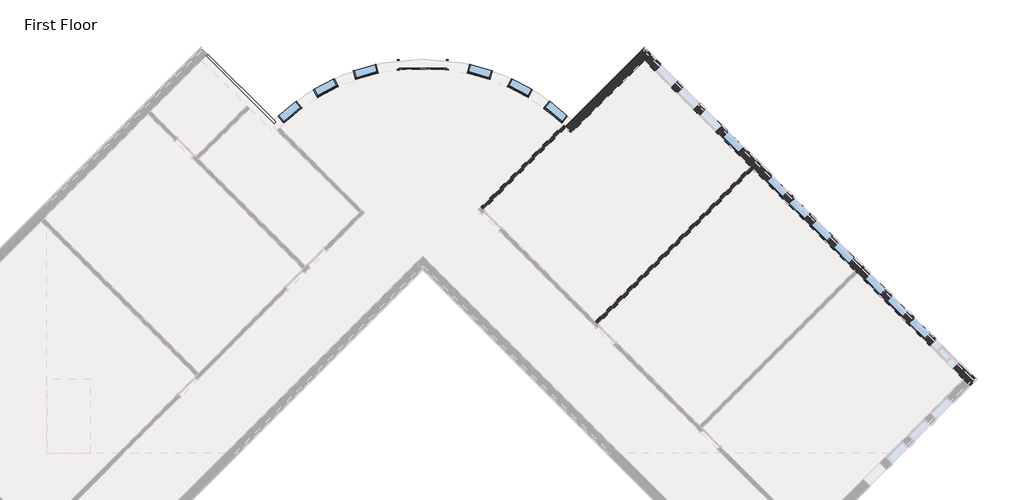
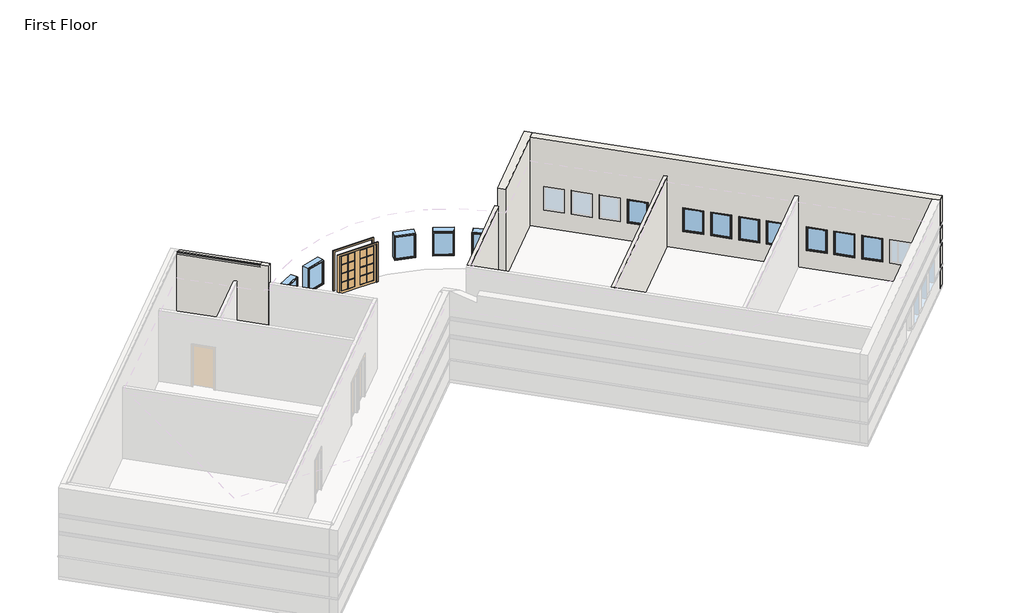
# One storey, part 2 of 3: 14 windows, 5 walls, 1 door.
"""IFC4 building model written with IfcOpenShell, lengths in millimetres."""

from ifc_helpers import new_model, si_unit, frame, origin, origin_with_axes, place, context, project, spatial, polyline, circle_curve, ellipse_curve, outline, extrude, faceted_brep, transform, mapped, element, save
from ifc_brep_helpers import plane_surface, cylinder_surface, revolved_surface, advanced_brep
from components import door_74f1c961, window_15c49d37, window_0e2fc6ce

model = new_model("IFC4")

# Units and contexts
model_context = context("Model", 3, world=origin())
ifc_project = project(units=[si_unit("LENGTHUNIT", "METRE", prefix="MILLI")], contexts=[model_context])

# Site, building, storey
site = spatial("IfcSite", under=ifc_project)
building = spatial("IfcBuilding", under=site)
storey = spatial("IfcBuildingStorey", under=building, Name="First Floor", Elevation=0.0)

# Door
placement = place(None, origin())
door_shape = door_74f1c961(model_context)
element("IfcDoor", 1, ObjectType="Double-Glass 2 : 72\" x 78\"", at=placement, inside=storey, context=model_context, shape_type="MappedRepresentation", body=[
    mapped(door_shape, transform((-3443.7425556, 10275.0854226, 0.0), x_axis=(-0.9999999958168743, -9.146721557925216e-05, 0.0), y_axis=(9.146721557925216e-05, -0.9999999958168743, 0.0), z_axis=(0.0, 0.0, 1.0))),
])

# Walls
element("IfcWall", 2, ObjectType="Exterior - Split Face and CMU on Mtl. Stud", at=placement, inside=storey, context=model_context, shape_type="AdvancedBrep", body=[
    advanced_brep(
    [(2346.973313, 7613.6268242, 0.0), (5178.0352806, 10444.6887918, 0.0), (5427.237388, 10693.8908991, 0.0), (5427.237388, 10693.8908991, 1016.0), (5362.1305311, 10628.7840422, 1016.0), (5362.1305311, 10628.7840422, 1085.85), (5427.237388, 10693.8908991, 1085.85), (5427.237388, 10693.8908991, 2133.6), (5362.1305311, 10628.7840422, 2133.6), (5362.1305311, 10628.7840422, 2336.8), (5427.237388, 10693.8908991, 2336.8), (5427.237388, 10693.8908991, 3048.0), (5362.1305311, 10628.7840422, 3048.0), (5362.1305311, 10628.7840422, 3251.2), (5427.237388, 10693.8908991, 3251.2), (5427.237388, 10693.8908991, 4572.0), (5178.0352806, 10444.6887918, 4572.0), (2346.973313, 7613.6268242, 4572.0), (2102.2428123, 7867.3005381, 4572.0), (2351.4472641, 8116.50499, 4572.0), (5178.0352806, 10943.0930065, 4572.0), (5178.0352806, 10943.0930065, 3251.2), (2351.4472641, 8116.50499, 3251.2), (2286.3398143, 8051.3975402, 3251.2), (2286.3398143, 8051.3975402, 3048.0), (2351.4472641, 8116.50499, 3048.0), (5178.0352806, 10943.0930065, 3048.0), (5178.0352806, 10943.0930065, 2336.8), (2351.4472641, 8116.50499, 2336.8), (2286.3398143, 8051.3975402, 2336.8), (2286.3398143, 8051.3975402, 2133.6), (2351.4472641, 8116.50499, 2133.6), (5178.0352806, 10943.0930065, 2133.6), (5178.0352806, 10943.0930065, 1085.85), (2351.4472641, 8116.50499, 1085.85), (2286.3398143, 8051.3975402, 1085.85), (2286.3398143, 8051.3975402, 1016.0), (2351.4472641, 8116.50499, 1016.0), (5178.0352806, 10943.0930065, 1016.0), (5178.0352806, 10943.0930065, 0.0), (2351.4472641, 8116.50499, 0.0), (2102.2428123, 7867.3005381, 0.0), (2167.2578198, 7802.1018319, 0.0), (5243.1421375, 10877.9861496, 0.0), (2351.3577606, 7986.2017727, 1016.0), (2351.3577606, 7986.2017727, 1085.85), (5178.0352806, 10812.8792927, 1085.85), (5178.0352806, 10812.8792927, 1016.0), (2351.3577606, 7986.2017727, 2133.6), (2351.3577606, 7986.2017727, 2336.8), (5178.0352806, 10812.8792927, 2336.8), (5178.0352806, 10812.8792927, 2133.6), (5178.0352806, 10812.8792927, 3048.0), (2351.3577606, 7986.2017727, 3048.0), (2351.3577606, 7986.2017727, 3251.2), (5178.0352806, 10812.8792927, 3251.2), (2132.6031084, 7837.04408, 0.0)],
    [
        (0, 1),
        (1, 2),
        (2, 3),
        (3, 4),
        (4, 5),
        (5, 6),
        (6, 7),
        (7, 8),
        (8, 9),
        (9, 10),
        (10, 11),
        (11, 12),
        (12, 13),
        (13, 14),
        (14, 15),
        (15, 16),
        (16, 17),
        (17, 0),
        (18, 19),
        (19, 20),
        (20, 21),
        (21, 22),
        (22, 23),
        (23, 24),
        (24, 25),
        (25, 26),
        (26, 27),
        (27, 28),
        (28, 29),
        (29, 30),
        (30, 31),
        (31, 32),
        (32, 33),
        (33, 34),
        (34, 35),
        (35, 36),
        (36, 37),
        (37, 38),
        (38, 39),
        (39, 40),
        (40, 41),
        (41, 18),
        (15, 20),
        (18, 17, circle_curve(frame((-3443.0105956, 2272.6557216, 4572.0), z_axis=(0.0, 0.0, -1.0), x_axis=(1.0, 0.0, 0.0)), 7877.175)),
        (0, 42, circle_curve(frame((-3443.0105956, 2272.6557216, 0.0), z_axis=(0.0, 0.0, 1.0), x_axis=(1.0, 0.0, 0.0)), 7877.175)),
        (42, 43),
        (43, 2),
        (44, 45),
        (45, 46),
        (46, 47),
        (47, 44),
        (48, 49),
        (49, 50),
        (50, 51),
        (51, 48),
        (52, 53),
        (53, 54),
        (54, 55),
        (55, 52),
        (14, 21),
        (43, 39),
        (38, 3),
        (6, 33),
        (32, 7),
        (10, 27),
        (26, 11),
        (46, 5),
        (4, 47),
        (50, 9),
        (8, 51),
        (55, 13),
        (12, 52),
        (42, 56, circle_curve(frame((-3443.0105956, 2272.6557216, 0.0), z_axis=(0.0, 0.0, 1.0), x_axis=(1.0, 0.0, 0.0)), 7877.175)),
        (56, 41, circle_curve(frame((-3443.0105956, 2272.6557216, 0.0), z_axis=(0.0, 0.0, 1.0), x_axis=(1.0, 0.0, 0.0)), 7877.175)),
        (45, 35, circle_curve(frame((-3443.0105956, 2272.6557216, 1085.85), z_axis=(0.0, 0.0, 1.0), x_axis=(0.684286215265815, 0.7292135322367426, 0.0)), 8137.525)),
        (36, 44, circle_curve(frame((-3443.0105956, 2272.6557216, 1016.0), z_axis=(0.0, 0.0, -1.0), x_axis=(0.684286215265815, 0.7292135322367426, 0.0)), 8137.525)),
        (30, 48, circle_curve(frame((-3443.0105956, 2272.6557216, 2133.6), z_axis=(0.0, 0.0, -1.0), x_axis=(-0.7040995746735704, 0.7101012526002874, 0.0)), 8137.525)),
        (29, 49, circle_curve(frame((-3443.0105956, 2272.6557216, 2336.8), z_axis=(0.0, 0.0, -1.0), x_axis=(-0.7040995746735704, 0.7101012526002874, 0.0)), 8137.525)),
        (24, 53, circle_curve(frame((-3443.0105956, 2272.6557216, 3048.0), z_axis=(0.0, 0.0, -1.0), x_axis=(-0.7040995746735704, 0.7101012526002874, 0.0)), 8137.525)),
        (23, 54, circle_curve(frame((-3443.0105956, 2272.6557216, 3251.2), z_axis=(0.0, 0.0, -1.0), x_axis=(-0.7040995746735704, 0.7101012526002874, 0.0)), 8137.525)),
    ],
    [
        plane_surface(frame((2409.8713313, 7676.5248424, 0.0), z_axis=(0.7071067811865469, -0.7071067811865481, 0.0), x_axis=(0.7071067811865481, 0.7071067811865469, 0.0))),
        plane_surface(frame((2160.6692239, 7925.7269498, 0.0), z_axis=(-0.7071067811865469, 0.7071067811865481, 0.0), x_axis=(-0.7071067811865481, -0.7071067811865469, 0.0))),
        plane_surface(frame((5302.6363343, 10569.2898454, 4572.0), z_axis=(0.0, 0.0, 1.0), x_axis=(-0.707106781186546, 0.7071067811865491, 0.0))),
        plane_surface(frame((2475.22429, 7741.8778012, 0.0), z_axis=(0.0, 0.0, -1.0), x_axis=(-0.7071067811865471, 0.7071067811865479, 0.0))),
        plane_surface(frame((2351.3577606, 7986.2017727, 1016.0), z_axis=(-0.7071067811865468, 0.7071067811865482, 0.0), x_axis=(0.7071067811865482, 0.7071067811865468, 0.0))),
        plane_surface(frame((2351.3577606, 7986.2017727, 2133.6), z_axis=(-0.7071067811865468, 0.7071067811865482, 0.0), x_axis=(0.7071067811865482, 0.7071067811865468, 0.0))),
        plane_surface(frame((2351.3577606, 7986.2017727, 3048.0), z_axis=(-0.7071067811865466, 0.7071067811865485, 0.0), x_axis=(0.7071067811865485, 0.7071067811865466, 0.0))),
        plane_surface(frame((5178.0352806, 10943.0930065, 0.0), z_axis=(0.7071067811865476, 0.7071067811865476, 0.0), x_axis=(-0.7071067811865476, 0.7071067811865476, 0.0))),
        plane_surface(frame((5178.0352806, 10812.8792927, 1016.0), z_axis=(0.7071067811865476, 0.7071067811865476, 0.0), x_axis=(0.7071067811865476, -0.7071067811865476, 0.0))),
        plane_surface(frame((5178.0352806, 10812.8792927, 2133.6), z_axis=(0.7071067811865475, 0.7071067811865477, 0.0), x_axis=(0.7071067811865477, -0.7071067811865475, 0.0))),
        plane_surface(frame((5178.0352806, 10812.8792927, 3048.0), z_axis=(0.7071067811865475, 0.7071067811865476, 0.0), x_axis=(0.7071067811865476, -0.7071067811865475, 0.0))),
        plane_surface(frame((0.0, 0.0, 0.0), z_axis=(0.0, 0.0, -1.0), x_axis=(1.0, 0.0, 0.0))),
        plane_surface(frame((-3443.0105956, 2272.6557216, 1085.85), z_axis=(0.0, 0.0, -1.0), x_axis=(0.684286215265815, 0.7292135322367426, 0.0))),
        plane_surface(frame((-3443.0105956, 2272.6557216, 1016.0), z_axis=(0.0, 0.0, 1.0), x_axis=(0.684286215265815, 0.7292135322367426, 0.0))),
        cylinder_surface(frame((-3443.0105956, 2272.6557216, 1016.0), z_axis=(0.0, 0.0, -1.0), x_axis=(0.684286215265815, 0.7292135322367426, 0.0)), 8137.525),
        plane_surface(frame((-3443.0105956, 2272.6557216, 2133.6), z_axis=(0.0, 0.0, 1.0), x_axis=(-0.7040995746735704, 0.7101012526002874, 0.0))),
        cylinder_surface(frame((-3443.0105956, 2272.6557216, 2133.6), z_axis=(0.0, 0.0, -1.0), x_axis=(-0.7040995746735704, 0.7101012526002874, 0.0)), 8137.525),
        plane_surface(frame((-3443.0105956, 2272.6557216, 2336.8), z_axis=(0.0, 0.0, -1.0), x_axis=(-0.7040995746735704, 0.7101012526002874, 0.0))),
        plane_surface(frame((-3443.0105956, 2272.6557216, 3048.0), z_axis=(0.0, 0.0, 1.0), x_axis=(-0.7040995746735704, 0.7101012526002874, 0.0))),
        cylinder_surface(frame((-3443.0105956, 2272.6557216, 3048.0), z_axis=(0.0, 0.0, -1.0), x_axis=(-0.7040995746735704, 0.7101012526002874, 0.0)), 8137.525),
        plane_surface(frame((-3443.0105956, 2272.6557216, 3251.2), z_axis=(0.0, 0.0, -1.0), x_axis=(-0.7040995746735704, 0.7101012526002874, 0.0))),
        revolved_surface(polyline([(4434.1644044, 2272.6557216, 0.0), (4434.1644044, 2272.6557216, 4572.0)]), (-3443.0105956, 2272.6557216, 0.0), (0.0, 0.0, -1.0)),
    ],
    [
        (0, [[1, 2, 3, 4, 5, 6, 7, 8, 9, 10, 11, 12, 13, 14, 15, 16, 17, 18]]),
        (1, [[19, 20, 21, 22, 23, 24, 25, 26, 27, 28, 29, 30, 31, 32, 33, 34, 35, 36, 37, 38, 39, 40, 41, 42]]),
        (2, [[-17, -16, 43, -20, -19, 44]]),
        (3, [[-2, -1, 45, 46, 47]]),
        (4, [[48, 49, 50, 51]]),
        (5, [[52, 53, 54, 55]]),
        (6, [[56, 57, 58, 59]]),
        (7, [[-43, -15, 60, -21]]),
        (7, [[-47, 61, -39, 62, -3]]),
        (7, [[-7, 63, -33, 64]]),
        (7, [[65, -27, 66, -11]]),
        (8, [[-50, 67, -5, 68]]),
        (9, [[-54, 69, -9, 70]]),
        (10, [[-59, 71, -13, 72]]),
        (11, [[-41, -40, -61, -46, 73, 74]]),
        (12, [[-49, 75, -35, -34, -63, -6, -67]]),
        (13, [[-51, -68, -4, -62, -38, -37, 76]]),
        (14, [[-48, -76, -36, -75]]),
        (15, [[-55, -70, -8, -64, -32, -31, 77]]),
        (16, [[-52, -77, -30, 78]]),
        (17, [[-53, -78, -29, -28, -65, -10, -69]]),
        (18, [[-56, -72, -12, -66, -26, -25, 79]]),
        (19, [[-57, -79, -24, 80]]),
        (20, [[-58, -80, -23, -22, -60, -14, -71]]),
        (21, [[-44, -42, -74, -73, -45, -18]]),
    ],
),
])
element("IfcWall", 3, ObjectType="Exterior - Split Face and CMU on Mtl. Stud", at=placement, inside=storey, context=model_context, shape_type="Brep", body=[
    faceted_brep([(5178.0352806, 10444.6887918, 0.0), (9308.9530963, 6313.7709761, 0.0), (9418.9612338, 6203.7628386, 0.0), (13370.2739271, 2252.4501453, 0.0), (13480.2820645, 2142.4420078, 0.0), (17611.1998802, -1988.4758079, 0.0), (17860.4019876, -2237.6779152, 0.0), (17860.4019876, -2237.6779152, 1016.0), (17795.2951307, -2172.5710583, 1016.0), (17795.2951307, -2172.5710583, 1085.85), (17860.4019876, -2237.6779152, 1085.85), (17860.4019876, -2237.6779152, 2133.6), (17795.2951307, -2172.5710583, 2133.6), (17795.2951307, -2172.5710583, 2336.8), (17860.4019876, -2237.6779152, 2336.8), (17860.4019876, -2237.6779152, 3048.0), (17795.2951307, -2172.5710583, 3048.0), (17795.2951307, -2172.5710583, 3251.2), (17860.4019876, -2237.6779152, 3251.2), (17860.4019876, -2237.6779152, 4572.0), (17611.1998802, -1988.4758079, 4572.0), (5178.0352806, 10444.6887918, 4572.0), (17196.9855667, -1574.2614943, 2133.6), (17196.9855667, -1574.2614943, 914.4), (16301.2050186, -678.4809462, 914.4), (16301.2050186, -678.4809462, 2133.6), (5592.2495942, 10030.4744782, 914.4), (5592.2495942, 10030.4744782, 2133.6), (6238.8280349, 9383.8960375, 2133.6), (6238.8280349, 9383.8960375, 914.4), (6454.3541818, 9168.3698906, 914.4), (6454.3541818, 9168.3698906, 2133.6), (7100.9326225, 8521.7914498, 2133.6), (7100.9326225, 8521.7914498, 914.4), (7316.4587694, 8306.2653029, 914.4), (7316.4587694, 8306.2653029, 2133.6), (7963.0372102, 7659.6868622, 2133.6), (7963.0372102, 7659.6868622, 914.4), (8178.5633571, 7444.1607153, 914.4), (8178.5633571, 7444.1607153, 2133.6), (8825.1417978, 6797.5822746, 2133.6), (8825.1417978, 6797.5822746, 914.4), (10549.350973, 5073.3730993, 2133.6), (10549.350973, 5073.3730993, 914.4), (9902.7725323, 5719.9515401, 914.4), (9902.7725323, 5719.9515401, 2133.6), (11411.4555607, 4211.2685117, 2133.6), (11411.4555607, 4211.2685117, 914.4), (10764.8771199, 4857.8469524, 914.4), (10764.8771199, 4857.8469524, 2133.6), (12273.5601483, 3349.1639241, 2133.6), (12273.5601483, 3349.1639241, 914.4), (11626.9817076, 3995.7423648, 914.4), (11626.9817076, 3995.7423648, 2133.6), (13135.6647359, 2487.0593365, 2133.6), (13135.6647359, 2487.0593365, 914.4), (12489.0862952, 3133.6377772, 914.4), (12489.0862952, 3133.6377772, 2133.6), (15439.100431, 183.6236414, 914.4), (15439.100431, 183.6236414, 2133.6), (16085.6788717, -462.9547993, 2133.6), (16085.6788717, -462.9547993, 914.4), (14576.9958433, 1045.728229, 914.4), (14576.9958433, 1045.728229, 2133.6), (15223.574284, 399.1497883, 2133.6), (15223.574284, 399.1497883, 914.4), (13714.8912557, 1907.8328167, 914.4), (13714.8912557, 1907.8328167, 2133.6), (14361.4696964, 1261.2543759, 2133.6), (14361.4696964, 1261.2543759, 914.4), (5427.237388, 10693.8908991, 4572.0), (18109.604095, -1988.4758079, 4572.0), (18109.604095, -1988.4758079, 3251.2), (5427.237388, 10693.8908991, 3251.2), (18109.604095, -1988.4758079, 0.0), (5427.237388, 10693.8908991, 0.0), (5427.237388, 10693.8908991, 1016.0), (5841.4517016, 10279.6765855, 1016.0), (5841.4517016, 10279.6765855, 914.4), (6488.0301423, 9633.0981448, 914.4), (6488.0301423, 9633.0981448, 1016.0), (6703.5562892, 9417.5719979, 1016.0), (6703.5562892, 9417.5719979, 914.4), (7350.1347299, 8770.9935572, 914.4), (7350.1347299, 8770.9935572, 1016.0), (7565.6608768, 8555.4674103, 1016.0), (7565.6608768, 8555.4674103, 914.4), (8212.2393175, 7908.8889696, 914.4), (8212.2393175, 7908.8889696, 1016.0), (8427.7654644, 7693.3628227, 1016.0), (8427.7654644, 7693.3628227, 914.4), (9074.3439051, 7046.7843819, 914.4), (9074.3439051, 7046.7843819, 1016.0), (10151.9746397, 5969.1536474, 1016.0), (10151.9746397, 5969.1536474, 914.4), (10798.5530804, 5322.5752067, 914.4), (10798.5530804, 5322.5752067, 1016.0), (11014.0792273, 5107.0490598, 1016.0), (11014.0792273, 5107.0490598, 914.4), (11660.657668, 4460.4706191, 914.4), (11660.657668, 4460.4706191, 1016.0), (11876.1838149, 4244.9444722, 1016.0), (11876.1838149, 4244.9444722, 914.4), (12522.7622556, 3598.3660315, 914.4), (12522.7622556, 3598.3660315, 1016.0), (12738.2884025, 3382.8398846, 1016.0), (12738.2884025, 3382.8398846, 914.4), (13384.8668433, 2736.2614438, 914.4), (13384.8668433, 2736.2614438, 1016.0), (13964.0933631, 2157.034924, 1016.0), (13964.0933631, 2157.034924, 914.4), (14610.6718038, 1510.4564833, 914.4), (14610.6718038, 1510.4564833, 1016.0), (14826.1979507, 1294.9303364, 1016.0), (14826.1979507, 1294.9303364, 914.4), (15472.7763914, 648.3518957, 914.4), (15472.7763914, 648.3518957, 1016.0), (15688.3025383, 432.8257488, 1016.0), (15688.3025383, 432.8257488, 914.4), (16334.880979, -213.7526919, 914.4), (16334.880979, -213.7526919, 1016.0), (16550.4071259, -429.2788388, 1016.0), (16550.4071259, -429.2788388, 914.4), (17446.187674, -1325.0593869, 914.4), (17446.187674, -1325.0593869, 1016.0), (18109.604095, -1988.4758079, 1016.0), (18109.604095, -1988.4758079, 1085.85), (17446.187674, -1325.0593869, 1085.85), (17446.187674, -1325.0593869, 2133.6), (18109.604095, -1988.4758079, 2133.6), (5841.4517016, 10279.6765855, 1085.85), (5427.237388, 10693.8908991, 1085.85), (5427.237388, 10693.8908991, 2133.6), (5841.4517016, 10279.6765855, 2133.6), (18109.604095, -1988.4758079, 2336.8), (5427.237388, 10693.8908991, 2336.8), (5427.237388, 10693.8908991, 3048.0), (18109.604095, -1988.4758079, 3048.0), (16334.880979, -213.7526919, 2133.6), (16550.4071259, -429.2788388, 2133.6), (16550.4071259, -429.2788388, 1085.85), (16334.880979, -213.7526919, 1085.85), (6488.0301423, 9633.0981448, 1085.85), (6488.0301423, 9633.0981448, 2133.6), (6703.5562892, 9417.5719979, 2133.6), (6703.5562892, 9417.5719979, 1085.85), (15472.7763914, 648.3518957, 2133.6), (15688.3025383, 432.8257488, 2133.6), (15688.3025383, 432.8257488, 1085.85), (15472.7763914, 648.3518957, 1085.85), (7350.1347299, 8770.9935572, 1085.85), (7350.1347299, 8770.9935572, 2133.6), (7565.6608768, 8555.4674103, 2133.6), (7565.6608768, 8555.4674103, 1085.85), (14610.6718038, 1510.4564833, 2133.6), (14826.1979507, 1294.9303364, 2133.6), (14826.1979507, 1294.9303364, 1085.85), (14610.6718038, 1510.4564833, 1085.85), (8212.2393175, 7908.8889696, 1085.85), (8212.2393175, 7908.8889696, 2133.6), (8427.7654644, 7693.3628227, 2133.6), (8427.7654644, 7693.3628227, 1085.85), (13384.8668433, 2736.2614438, 2133.6), (13964.0933631, 2157.034924, 2133.6), (13964.0933631, 2157.034924, 1085.85), (13384.8668433, 2736.2614438, 1085.85), (9074.3439051, 7046.7843819, 1085.85), (9074.3439051, 7046.7843819, 2133.6), (10151.9746397, 5969.1536474, 2133.6), (10151.9746397, 5969.1536474, 1085.85), (12522.7622556, 3598.3660315, 2133.6), (12738.2884025, 3382.8398846, 2133.6), (12738.2884025, 3382.8398846, 1085.85), (12522.7622556, 3598.3660315, 1085.85), (10798.5530804, 5322.5752067, 1085.85), (10798.5530804, 5322.5752067, 2133.6), (11014.0792273, 5107.0490598, 2133.6), (11014.0792273, 5107.0490598, 1085.85), (11660.657668, 4460.4706191, 1085.85), (11660.657668, 4460.4706191, 2133.6), (11876.1838149, 4244.9444722, 2133.6), (11876.1838149, 4244.9444722, 1085.85), (5362.1305311, 10628.7840422, 0.0), (18044.4972381, -2053.5826647, 0.0), (17979.3903812, -1988.4758079, 1085.85), (17381.0808171, -1390.1662438, 1085.85), (17381.0808171, -1390.1662438, 1016.0), (17979.3903812, -1988.4758079, 1016.0), (17979.3903812, -1988.4758079, 2133.6), (17381.0808171, -1390.1662438, 2133.6), (16485.3002691, -494.3856957, 2133.6), (16269.7741222, -278.8595488, 2133.6), (15623.1956814, 367.7188919, 2133.6), (15407.6695345, 583.2450388, 2133.6), (14761.0910938, 1229.8234795, 2133.6), (14545.5649469, 1445.3496264, 2133.6), (13898.9865062, 2091.9280671, 2133.6), (13319.7599864, 2671.154587, 2133.6), (12673.1815457, 3317.7330277, 2133.6), (12457.6553988, 3533.2591746, 2133.6), (11811.076958, 4179.8376153, 2133.6), (11595.5508111, 4395.3637622, 2133.6), (10948.9723704, 5041.9422029, 2133.6), (10733.4462235, 5257.4683498, 2133.6), (10086.8677828, 5904.0467905, 2133.6), (9009.2370483, 6981.6775251, 2133.6), (8362.6586076, 7628.2559658, 2133.6), (8147.1324606, 7843.7821127, 2133.6), (7500.5540199, 8490.3605534, 2133.6), (7285.027873, 8705.8867003, 2133.6), (6638.4494323, 9352.465141, 2133.6), (6422.9232854, 9567.9912879, 2133.6), (5776.3448447, 10214.5697287, 2133.6), (5362.1305311, 10628.7840422, 2133.6), (5362.1305311, 10628.7840422, 2336.8), (17979.3903812, -1988.4758079, 2336.8), (17979.3903812, -1988.4758079, 3251.2), (17979.3903812, -1988.4758079, 3048.0), (5362.1305311, 10628.7840422, 3048.0), (5362.1305311, 10628.7840422, 3251.2), (5362.1305311, 10628.7840422, 1085.85), (5362.1305311, 10628.7840422, 1016.0), (5776.3448447, 10214.5697287, 1085.85), (5776.3448447, 10214.5697287, 1016.0), (16269.7741222, -278.8595488, 1085.85), (16485.3002691, -494.3856957, 1085.85), (16485.3002691, -494.3856957, 1016.0), (16269.7741222, -278.8595488, 1016.0), (6422.9232854, 9567.9912879, 1085.85), (6422.9232854, 9567.9912879, 1016.0), (15407.6695345, 583.2450388, 1085.85), (15623.1956814, 367.7188919, 1085.85), (15623.1956814, 367.7188919, 1016.0), (15407.6695345, 583.2450388, 1016.0), (6638.4494323, 9352.465141, 1016.0), (6638.4494323, 9352.465141, 1085.85), (7285.027873, 8705.8867003, 1085.85), (7285.027873, 8705.8867003, 1016.0), (14545.5649469, 1445.3496264, 1085.85), (14761.0910938, 1229.8234795, 1085.85), (14761.0910938, 1229.8234795, 1016.0), (14545.5649469, 1445.3496264, 1016.0), (7500.5540199, 8490.3605534, 1016.0), (7500.5540199, 8490.3605534, 1085.85), (8147.1324606, 7843.7821127, 1085.85), (8147.1324606, 7843.7821127, 1016.0), (13319.7599864, 2671.154587, 1085.85), (13898.9865062, 2091.9280671, 1085.85), (13898.9865062, 2091.9280671, 1016.0), (13319.7599864, 2671.154587, 1016.0), (8362.6586076, 7628.2559658, 1016.0), (8362.6586076, 7628.2559658, 1085.85), (9009.2370483, 6981.6775251, 1085.85), (9009.2370483, 6981.6775251, 1016.0), (12457.6553988, 3533.2591746, 1085.85), (12673.1815457, 3317.7330277, 1085.85), (12673.1815457, 3317.7330277, 1016.0), (12457.6553988, 3533.2591746, 1016.0), (10733.4462235, 5257.4683498, 1085.85), (10733.4462235, 5257.4683498, 1016.0), (10086.8677828, 5904.0467905, 1016.0), (10086.8677828, 5904.0467905, 1085.85), (11595.5508111, 4395.3637622, 1085.85), (11595.5508111, 4395.3637622, 1016.0), (10948.9723704, 5041.9422029, 1016.0), (10948.9723704, 5041.9422029, 1085.85), (11811.076958, 4179.8376153, 1016.0), (11811.076958, 4179.8376153, 1085.85)], [[[0, 1, 2, 3, 4, 5, 6, 7, 8, 9, 10, 11, 12, 13, 14, 15, 16, 17, 18, 19, 20, 21], [22, 23, 24, 25], [26, 27, 28, 29], [30, 31, 32, 33], [34, 35, 36, 37], [38, 39, 40, 41], [42, 43, 44, 45], [46, 47, 48, 49], [50, 51, 52, 53], [54, 55, 56, 57], [58, 59, 60, 61], [62, 63, 64, 65], [66, 67, 68, 69]], [[70, 71, 72, 73]], [[74, 75, 76, 77, 78, 79, 80, 81, 82, 83, 84, 85, 86, 87, 88, 89, 90, 91, 92, 93, 94, 95, 96, 97, 98, 99, 100, 101, 102, 103, 104, 105, 106, 107, 108, 109, 110, 111, 112, 113, 114, 115, 116, 117, 118, 119, 120, 121, 122, 123, 124, 125]], [[126, 127, 128, 129]], [[130, 131, 132, 133]], [[134, 135, 136, 137]], [[138, 139, 140, 141]], [[142, 143, 144, 145]], [[146, 147, 148, 149]], [[150, 151, 152, 153]], [[154, 155, 156, 157]], [[158, 159, 160, 161]], [[162, 163, 164, 165]], [[166, 167, 168, 169]], [[170, 171, 172, 173]], [[174, 175, 176, 177]], [[178, 179, 180, 181]], [[21, 20, 19, 71, 70]], [[6, 5, 4, 3, 2, 1, 0, 182, 183]], [[184, 185, 127, 126, 10, 9]], [[186, 187, 8, 7, 125, 124]], [[185, 184, 187, 186]], [[188, 189, 190, 191, 192, 193, 194, 195, 196, 197, 198, 199, 200, 201, 202, 203, 204, 205, 206, 207, 208, 209, 210, 211, 212, 213, 214, 215]], [[216, 217, 218, 219]], [[0, 21, 70, 73, 219, 218, 136, 135, 214, 213, 132, 131, 220, 221, 76, 75, 182]], [[75, 74, 183, 182]], [[131, 130, 222, 220]], [[77, 76, 221, 223]], [[132, 213, 212, 133]], [[189, 188, 12, 11, 129, 128]], [[139, 138, 191, 190]], [[143, 211, 210, 144]], [[147, 146, 193, 192]], [[151, 209, 208, 152]], [[155, 154, 195, 194]], [[159, 207, 206, 160]], [[163, 162, 197, 196]], [[167, 205, 204, 168]], [[171, 170, 199, 198]], [[201, 200, 180, 179]], [[203, 202, 176, 175]], [[215, 214, 135, 134, 14, 13]], [[218, 217, 16, 15, 137, 136]], [[17, 216, 219, 73, 72, 18]], [[71, 19, 18, 72]], [[6, 183, 74, 125, 7]], [[14, 134, 137, 15]], [[11, 10, 126, 129]], [[188, 215, 13, 12]], [[217, 216, 17, 16]], [[23, 123, 122, 24]], [[23, 22, 189, 128, 127, 185, 186, 124, 123]], [[189, 22, 25, 190]], [[224, 225, 226, 227]], [[27, 26, 78, 77, 223, 222, 130, 133, 212]], [[79, 78, 26, 29]], [[29, 28, 211, 143, 142, 228, 229, 80, 79]], [[28, 27, 212, 211]], [[230, 231, 232, 233]], [[225, 224, 141, 140]], [[227, 226, 121, 120]], [[31, 30, 82, 81, 234, 235, 145, 144, 210]], [[83, 82, 30, 33]], [[33, 32, 209, 151, 150, 236, 237, 84, 83]], [[32, 31, 210, 209]], [[238, 239, 240, 241]], [[231, 230, 149, 148]], [[233, 232, 117, 116]], [[35, 34, 86, 85, 242, 243, 153, 152, 208]], [[87, 86, 34, 37]], [[37, 36, 207, 159, 158, 244, 245, 88, 87]], [[36, 35, 208, 207]], [[246, 247, 248, 249]], [[239, 238, 157, 156]], [[241, 240, 113, 112]], [[39, 38, 90, 89, 250, 251, 161, 160, 206]], [[91, 90, 38, 41]], [[41, 40, 205, 167, 166, 252, 253, 92, 91]], [[40, 39, 206, 205]], [[254, 255, 256, 257]], [[247, 246, 165, 164]], [[249, 248, 109, 108]], [[43, 42, 203, 175, 174, 258, 259, 96, 95]], [[44, 43, 95, 94]], [[45, 44, 94, 93, 260, 261, 169, 168, 204]], [[42, 45, 204, 203]], [[47, 46, 201, 179, 178, 262, 263, 100, 99]], [[48, 47, 99, 98]], [[49, 48, 98, 97, 264, 265, 177, 176, 202]], [[46, 49, 202, 201]], [[51, 50, 199, 170, 173, 254, 257, 104, 103]], [[52, 51, 103, 102]], [[53, 52, 102, 101, 266, 267, 181, 180, 200]], [[50, 53, 200, 199]], [[55, 54, 197, 162, 165, 246, 249, 108, 107]], [[56, 55, 107, 106]], [[57, 56, 106, 105, 256, 255, 172, 171, 198]], [[54, 57, 198, 197]], [[244, 251, 250, 245]], [[261, 252, 166, 169]], [[253, 260, 93, 92]], [[252, 261, 260, 253]], [[265, 258, 174, 177]], [[259, 264, 97, 96]], [[258, 265, 264, 259]], [[267, 262, 178, 181]], [[263, 266, 101, 100]], [[262, 267, 266, 263]], [[255, 254, 173, 172]], [[257, 256, 105, 104]], [[24, 122, 121, 226, 225, 140, 139, 190, 25]], [[59, 58, 118, 117, 232, 231, 148, 147, 192]], [[119, 118, 58, 61]], [[61, 60, 191, 138, 141, 224, 227, 120, 119]], [[60, 59, 192, 191]], [[63, 62, 114, 113, 240, 239, 156, 155, 194]], [[115, 114, 62, 65]], [[65, 64, 193, 146, 149, 230, 233, 116, 115]], [[64, 63, 194, 193]], [[67, 66, 110, 109, 248, 247, 164, 163, 196]], [[111, 110, 66, 69]], [[69, 68, 195, 154, 157, 238, 241, 112, 111]], [[68, 67, 196, 195]], [[220, 222, 223, 221]], [[235, 228, 142, 145]], [[229, 234, 81, 80]], [[228, 235, 234, 229]], [[243, 236, 150, 153]], [[237, 242, 85, 84]], [[236, 243, 242, 237]], [[251, 244, 158, 161]], [[245, 250, 89, 88]], [[187, 184, 9, 8]]]),
])
element("IfcWall", 4, ObjectType="Exterior - Split Face and CMU on Mtl. Stud", at=placement, inside=storey, context=model_context, shape_type="AdvancedBrep", body=[
    advanced_brep(
    [(-9232.9945042, 7613.6268242, 0.0), (-9232.9945042, 7613.6268242, 4689.475), (-12064.0564718, 10444.6887918, 4689.475), (-12064.0564718, 10444.6887918, 4639.3965909), (-9486.6705627, 7867.3028826, 4639.3965909), (-9486.6705627, 7867.3028826, 4572.0), (-12064.0564718, 10444.6887918, 4572.0), (-12064.0564718, 10444.6887918, 0.0), (-10303.9262721, 8684.558592, 0.0), (-10193.9181346, 8574.5504545, 0.0), (-11814.8543645, 10693.8908991, 0.0), (-11814.8543645, 10693.8908991, 1016.0), (-9237.4684553, 8116.50499, 1016.0), (-9172.3610055, 8051.3975402, 1016.0), (-9172.3610055, 8051.3975402, 1085.85), (-9237.4684553, 8116.50499, 1085.85), (-11814.8543645, 10693.8908991, 1085.85), (-11814.8543645, 10693.8908991, 2133.6), (-9237.4684553, 8116.50499, 2133.6), (-9172.3610055, 8051.3975402, 2133.6), (-9172.3610055, 8051.3975402, 2336.8), (-9237.4684553, 8116.50499, 2336.8), (-11814.8543645, 10693.8908991, 2336.8), (-11814.8543645, 10693.8908991, 3048.0), (-9237.4684553, 8116.50499, 3048.0), (-9172.3610055, 8051.3975402, 3048.0), (-9172.3610055, 8051.3975402, 3251.2), (-9237.4684553, 8116.50499, 3251.2), (-11814.8543645, 10693.8908991, 3251.2), (-11814.8543645, 10693.8908991, 4572.0), (-9237.4684553, 8116.50499, 4572.0), (-8988.2640035, 7867.3005381, 4572.0), (-8988.2640035, 7867.3005381, 0.0), (-9237.4684553, 8116.50499, 0.0), (-9237.3789518, 7986.2017727, 1016.0), (-11879.9612214, 10628.7840422, 1016.0), (-11879.9612214, 10628.7840422, 1085.85), (-9237.3789518, 7986.2017727, 1085.85), (-9237.3789518, 7986.2017727, 2133.6), (-11879.9612214, 10628.7840422, 2133.6), (-11879.9612214, 10628.7840422, 2336.8), (-9237.3789518, 7986.2017727, 2336.8), (-9237.3789518, 7986.2017727, 3048.0), (-11879.9612214, 10628.7840422, 3048.0), (-11879.9612214, 10628.7840422, 3251.2), (-9237.3789518, 7986.2017727, 3251.2), (-9411.2798641, 7942.6935812, 4653.9354839), (-11988.6657733, 10520.0794903, 4653.9354839), (-9132.9284077, 7720.1066184, 0.0), (-9024.2284636, 7831.4229492, 0.0)],
    [
        (0, 1),
        (1, 2),
        (2, 3),
        (3, 4),
        (4, 5),
        (5, 6),
        (6, 7),
        (7, 8),
        (8, 9),
        (9, 0),
        (10, 11),
        (11, 12),
        (12, 13),
        (13, 14),
        (14, 15),
        (15, 16),
        (16, 17),
        (17, 18),
        (18, 19),
        (19, 20),
        (20, 21),
        (21, 22),
        (22, 23),
        (23, 24),
        (24, 25),
        (25, 26),
        (26, 27),
        (27, 28),
        (28, 29),
        (29, 30),
        (30, 31),
        (31, 32),
        (32, 33),
        (33, 10),
        (34, 35),
        (35, 36),
        (36, 37),
        (37, 34),
        (38, 39),
        (39, 40),
        (40, 41),
        (41, 38),
        (42, 43),
        (43, 44),
        (44, 45),
        (45, 42),
        (4, 46),
        (46, 30),
        (30, 5),
        (10, 7),
        (6, 29),
        (28, 44),
        (43, 23),
        (22, 40),
        (39, 17),
        (16, 36),
        (35, 11),
        (2, 47),
        (47, 3),
        (14, 37, circle_curve(frame((-3443.0105956, 2272.6557216, 1085.85), z_axis=(0.0, 0.0, 1.0), x_axis=(-0.7040995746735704, 0.7101012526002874, 0.0)), 8137.525)),
        (34, 13, circle_curve(frame((-3443.0105956, 2272.6557216, 1016.0), z_axis=(0.0, 0.0, -1.0), x_axis=(-0.7040995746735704, 0.7101012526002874, 0.0)), 8137.525)),
        (38, 19, circle_curve(frame((-3443.0105956, 2272.6557216, 2133.6), z_axis=(0.0, 0.0, -1.0), x_axis=(-0.712055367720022, 0.7021233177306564, 0.0)), 8137.525)),
        (41, 20, circle_curve(frame((-3443.0105956, 2272.6557216, 2336.8), z_axis=(0.0, 0.0, -1.0), x_axis=(-0.712055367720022, 0.7021233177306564, 0.0)), 8137.525)),
        (42, 25, circle_curve(frame((-3443.0105956, 2272.6557216, 3048.0), z_axis=(0.0, 0.0, -1.0), x_axis=(-0.712055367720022, 0.7021233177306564, 0.0)), 8137.525)),
        (45, 26, circle_curve(frame((-3443.0105956, 2272.6557216, 3251.2), z_axis=(0.0, 0.0, -1.0), x_axis=(-0.712055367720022, 0.7021233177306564, 0.0)), 8137.525)),
        (0, 48, circle_curve(frame((-3443.0105956, 2272.6557216, 0.0), z_axis=(0.0, 0.0, -1.0), x_axis=(1.0, 0.0, 0.0)), 7877.175)),
        (48, 49, circle_curve(frame((-3443.0105956, 2272.6557216, 0.0), z_axis=(0.0, 0.0, -1.0), x_axis=(1.0, 0.0, 0.0)), 7877.175)),
        (49, 32, circle_curve(frame((-3443.0105956, 2272.6557216, 0.0), z_axis=(0.0, 0.0, -1.0), x_axis=(1.0, 0.0, 0.0)), 7877.175)),
        (31, 1, ellipse_curve(frame((-3443.0105956, 2272.6557216, 4583.6416667), z_axis=(0.22360679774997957, 0.22360679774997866, 0.9486832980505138), x_axis=(0.6708203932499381, 0.6708203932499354, -0.31622776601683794)), 8303.2715092, 7877.175)),
        (46, 47),
    ],
    [
        plane_surface(frame((-12313.2585792, 10693.8908991, 0.0), z_axis=(-0.707106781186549, -0.7071067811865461, 0.0), x_axis=(0.7071067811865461, -0.707106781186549, 0.0))),
        plane_surface(frame((-12064.0564718, 10943.0930065, 0.0), z_axis=(0.707106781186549, 0.7071067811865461, 0.0), x_axis=(-0.7071067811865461, 0.707106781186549, 0.0))),
        plane_surface(frame((-12064.0564718, 10812.8792927, 1016.0), z_axis=(0.707106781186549, 0.707106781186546, 0.0), x_axis=(0.707106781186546, -0.707106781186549, 0.0))),
        plane_surface(frame((-12064.0564718, 10812.8792927, 2133.6), z_axis=(0.7071067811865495, 0.7071067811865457, 0.0), x_axis=(0.7071067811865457, -0.7071067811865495, 0.0))),
        plane_surface(frame((-12064.0564718, 10812.8792927, 3048.0), z_axis=(0.7071067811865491, 0.7071067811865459, 0.0), x_axis=(0.7071067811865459, -0.7071067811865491, 0.0))),
        plane_surface(frame((-9237.4684553, 8116.50499, 4185.7445793), z_axis=(-0.7071067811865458, 0.7071067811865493, 0.0), x_axis=(0.7071067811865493, 0.7071067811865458, 0.0))),
        plane_surface(frame((-24746.4231788, -2237.6779152, 0.0), z_axis=(-0.7071067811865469, 0.7071067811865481, 0.0), x_axis=(0.7071067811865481, 0.7071067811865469, 0.0))),
        plane_surface(frame((-25013.5857984, -1970.5152956, 4572.0), z_axis=(0.0, 0.0, 1.0), x_axis=(0.7071067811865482, 0.7071067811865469, 0.0))),
        plane_surface(frame((-3443.0105956, 2272.6557216, 1085.85), z_axis=(0.0, 0.0, -1.0), x_axis=(-0.7040995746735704, 0.7101012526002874, 0.0))),
        plane_surface(frame((-3443.0105956, 2272.6557216, 1016.0), z_axis=(0.0, 0.0, 1.0), x_axis=(-0.7040995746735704, 0.7101012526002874, 0.0))),
        cylinder_surface(frame((-3443.0105956, 2272.6557216, 1016.0), z_axis=(0.0, 0.0, -1.0), x_axis=(-0.7040995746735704, 0.7101012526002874, 0.0)), 8137.525),
        plane_surface(frame((-3443.0105956, 2272.6557216, 2133.6), z_axis=(0.0, 0.0, 1.0), x_axis=(-0.712055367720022, 0.7021233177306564, 0.0))),
        cylinder_surface(frame((-3443.0105956, 2272.6557216, 2133.6), z_axis=(0.0, 0.0, -1.0), x_axis=(-0.712055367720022, 0.7021233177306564, 0.0)), 8137.525),
        plane_surface(frame((-3443.0105956, 2272.6557216, 2336.8), z_axis=(0.0, 0.0, -1.0), x_axis=(-0.712055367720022, 0.7021233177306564, 0.0))),
        plane_surface(frame((-3443.0105956, 2272.6557216, 3048.0), z_axis=(0.0, 0.0, 1.0), x_axis=(-0.712055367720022, 0.7021233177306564, 0.0))),
        cylinder_surface(frame((-3443.0105956, 2272.6557216, 3048.0), z_axis=(0.0, 0.0, -1.0), x_axis=(-0.712055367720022, 0.7021233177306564, 0.0)), 8137.525),
        plane_surface(frame((-3443.0105956, 2272.6557216, 3251.2), z_axis=(0.0, 0.0, -1.0), x_axis=(-0.712055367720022, 0.7021233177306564, 0.0))),
        revolved_surface(polyline([(4434.1644044, 2272.6557216, 0.0), (4434.1644044, 2272.6557216, 7209.366666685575)]), (-3443.0105956, 2272.6557216, 0.0), (0.0, 0.0, -1.0)),
        plane_surface(frame((-1718.8014204, 2322.0471303, 4165.6), z_axis=(0.22360679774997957, 0.22360679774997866, 0.9486832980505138), x_axis=(-0.7071067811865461, 0.707106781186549, 0.0))),
        plane_surface(frame((-12064.0564718, 10404.2776392, 4635.5), z_axis=(0.09553946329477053, 0.09553946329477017, -0.9908301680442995), x_axis=(0.7071067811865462, -0.7071067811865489, 0.0))),
        plane_surface(frame((-16499.1804636, -10484.9206304, 0.0), z_axis=(0.0, 0.0, -1.0), x_axis=(0.7071067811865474, -0.7071067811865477, 0.0))),
    ],
    [
        (0, [[1, 2, 3, 4, 5, 6, 7, 8, 9, 10]]),
        (1, [[11, 12, 13, 14, 15, 16, 17, 18, 19, 20, 21, 22, 23, 24, 25, 26, 27, 28, 29, 30, 31, 32, 33, 34]]),
        (2, [[35, 36, 37, 38]]),
        (3, [[39, 40, 41, 42]]),
        (4, [[43, 44, 45, 46]]),
        (5, [[47, 48, 49, -5]]),
        (6, [[-11, 50, -7, 51, -29, 52, -44, 53, -23, 54, -40, 55, -17, 56, -36, 57]]),
        (6, [[-3, 58, 59]]),
        (7, [[-49, -30, -51, -6]]),
        (8, [[-37, -56, -16, -15, 60]]),
        (9, [[-35, 61, -13, -12, -57]]),
        (10, [[-38, -60, -14, -61]]),
        (11, [[-39, 62, -19, -18, -55]]),
        (12, [[-42, 63, -20, -62]]),
        (13, [[-41, -54, -22, -21, -63]]),
        (14, [[-43, 64, -25, -24, -53]]),
        (15, [[-46, 65, -26, -64]]),
        (16, [[-45, -52, -28, -27, -65]]),
        (17, [[66, 67, 68, -32, 69, -1]]),
        (18, [[-2, -69, -31, -48, 70, -58]]),
        (19, [[-47, -4, -59, -70]]),
        (20, [[-68, -67, -66, -10, -9, -8, -50, -34, -33]]),
    ],
),
])
element("IfcWall", 5, ObjectType="Interior - 6 1/8\" Partition (2-hr)", at=placement, inside=storey, context=model_context, shape_type="AdvancedBrep", body=[
    advanced_brep(
    [(-1077.8356397, 4626.6053573, 0.0), (2132.6030957, 7837.0440928, 0.0), (2132.6030957, 7837.0440928, 3657.6), (-1077.8356397, 4626.6053573, 3657.6), (-1187.8437772, 4736.6134948, 0.0), (-1187.8437772, 4736.6134948, 3657.6), (2021.619387, 7946.076659, 3657.6), (2021.619387, 7946.076659, 0.0), (2102.2424893, 7867.3008561, 0.0)],
    [
        (0, 1),
        (1, 2),
        (2, 3),
        (3, 0),
        (4, 5),
        (5, 6),
        (6, 7),
        (7, 4),
        (0, 4),
        (7, 8, circle_curve(frame((-3443.0105956, 2272.6557216, 0.0), z_axis=(0.0, 0.0, -1.0), x_axis=(1.0, 0.0, 0.0)), 7877.175)),
        (8, 1, circle_curve(frame((-3443.0105956, 2272.6557216, 0.0), z_axis=(0.0, 0.0, -1.0), x_axis=(1.0, 0.0, 0.0)), 7877.1749985)),
        (2, 6, circle_curve(frame((-3443.0105956, 2272.6557216, 3657.6), z_axis=(0.0, 0.0, 1.0), x_axis=(1.0, 0.0, 0.0)), 7877.175)),
        (5, 3),
    ],
    [
        plane_surface(frame((-1132.8397085, 4571.6012886, 0.0), z_axis=(0.707106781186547, -0.7071067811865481, 0.0), x_axis=(0.7071067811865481, 0.707106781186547, 0.0))),
        plane_surface(frame((-1242.8478459, 4681.6094261, 0.0), z_axis=(-0.707106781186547, 0.7071067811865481, 0.0), x_axis=(-0.7071067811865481, -0.707106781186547, 0.0))),
        plane_surface(frame((-1132.8397085, 4571.6012886, 0.0), z_axis=(0.0, 0.0, -1.0000000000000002), x_axis=(-0.7071067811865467, 0.7071067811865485, 0.0))),
        plane_surface(frame((2256.9927783, 7961.4337753, 3657.6), z_axis=(0.0, 0.0, 1.0000000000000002), x_axis=(-0.7071067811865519, 0.7071067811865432, 0.0))),
        plane_surface(frame((11698.8237565, -8150.0540389, 0.0), z_axis=(-0.7071067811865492, -0.7071067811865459, 0.0), x_axis=(-0.7071067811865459, 0.7071067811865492, 0.0))),
        cylinder_surface(frame((-3443.0105956, 2272.6557216, 0.0), z_axis=(0.0, 0.0, -1.0), x_axis=(1.0, 0.0, 0.0)), 7877.175),
    ],
    [
        (0, [[1, 2, 3, 4]]),
        (1, [[5, 6, 7, 8]]),
        (2, [[-1, 9, -8, 10, 11]]),
        (3, [[-3, 12, -6, 13]]),
        (4, [[-4, -13, -5, -9]]),
        (5, [[-2, -11, -10, -7, -12]]),
    ],
),
])
element("IfcWall", 6, ObjectType="Interior - 6 1/8\" Partition (2-hr)", at=placement, inside=storey, context=model_context, shape_type="SweptSolid", body=[
    extrude(outline(polyline([(3271.9759189, 276.7937987), (9308.9530963, 6313.7709761), (9418.9612338, 6203.7628386), (3381.9840564, 166.7856612), (3271.9759189, 276.7937987)])), origin_with_axes(), (0.0, 0.0, 1.0), 3657.6),
])

# Windows
window_shape = window_15c49d37(model_context)
element("IfcWindow", 7, ObjectType="Fixed : 36\" x 48\"", at=placement, inside=storey, context=model_context, shape_type="MappedRepresentation", body=[
    mapped(window_shape, transform((-8641.2060106, 8407.2065347, 0.0), x_axis=(-0.7659856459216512, -0.6428576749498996, 0.0), y_axis=(0.6428576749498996, -0.7659856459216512, 0.0), z_axis=(0.0, 0.0, 1.0))),
])
element("IfcWindow", 8, ObjectType="Fixed : 36\" x 48\"", at=placement, inside=storey, context=model_context, shape_type="MappedRepresentation", body=[
    mapped(window_shape, transform((-7253.371199, 9353.2701952, 0.0), x_axis=(-0.8828248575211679, -0.4697023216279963, 0.0), y_axis=(0.4697023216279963, -0.8828248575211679, 0.0), z_axis=(0.0, 0.0, 1.0))),
])
element("IfcWindow", 9, ObjectType="Fixed : 36\" x 48\"", at=placement, inside=storey, context=model_context, shape_type="MappedRepresentation", body=[
    mapped(window_shape, transform((-5699.2744355, 9990.3770651, 0.0), x_axis=(-0.961142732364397, -0.27605189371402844, 0.0), y_axis=(0.27605189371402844, -0.961142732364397, 0.0), z_axis=(0.0, 0.0, 1.0))),
])
element("IfcWindow", 10, ObjectType="Fixed : 36\" x 48\"", at=placement, inside=storey, context=model_context, shape_type="MappedRepresentation", body=[
    mapped(window_shape, transform((8599.5128627, 7272.413317, 0.0), x_axis=(-0.7071067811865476, 0.7071067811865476, 0.0), y_axis=(-0.7071067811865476, -0.7071067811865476, 0.0), z_axis=(0.0, 0.0, 1.0))),
])
element("IfcWindow", 11, ObjectType="Fixed : 36\" x 48\"", at=placement, inside=storey, context=model_context, shape_type="MappedRepresentation", body=[
    mapped(window_shape, transform((14135.8407614, 1736.0854184, 0.0), x_axis=(-0.7071067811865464, 0.7071067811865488, 0.0), y_axis=(-0.7071067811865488, -0.7071067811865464, 0.0), z_axis=(0.0, 0.0, 1.0))),
])
element("IfcWindow", 12, ObjectType="Fixed : 36\" x 48\"", at=placement, inside=storey, context=model_context, shape_type="MappedRepresentation", body=[
    mapped(window_shape, transform((14997.945349, 873.9808307, 0.0), x_axis=(-0.7071067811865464, 0.7071067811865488, 0.0), y_axis=(-0.7071067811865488, -0.7071067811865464, 0.0), z_axis=(0.0, 0.0, 1.0))),
])
element("IfcWindow", 13, ObjectType="Fixed : 36\" x 48\"", at=placement, inside=storey, context=model_context, shape_type="MappedRepresentation", body=[
    mapped(window_shape, transform((15860.0499366, 11.8762431, 0.0), x_axis=(-0.7071067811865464, 0.7071067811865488, 0.0), y_axis=(-0.7071067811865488, -0.7071067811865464, 0.0), z_axis=(0.0, 0.0, 1.0))),
])
window_2_shape = window_0e2fc6ce(model_context)
element("IfcWindow", 14, ObjectType="Fixed : 36\" x 48\"", at=placement, inside=storey, context=model_context, shape_type="MappedRepresentation", body=[
    mapped(window_2_shape, transform((1754.0625119, 8408.157361, 0.0), x_axis=(0.7661032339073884, -0.6427175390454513, 0.0), y_axis=(0.6427175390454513, 0.7661032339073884, 0.0), z_axis=(0.0, 0.0, 1.0))),
])
element("IfcWindow", 15, ObjectType="Fixed : 36\" x 48\"", at=placement, inside=storey, context=model_context, shape_type="MappedRepresentation", body=[
    mapped(window_2_shape, transform((366.0546559, 9353.9671228, 0.0), x_axis=(0.8829107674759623, -0.4695408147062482, 0.0), y_axis=(0.4695408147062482, 0.8829107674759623, 0.0), z_axis=(0.0, 0.0, 1.0))),
])
element("IfcWindow", 16, ObjectType="Fixed : 36\" x 48\"", at=placement, inside=storey, context=model_context, shape_type="MappedRepresentation", body=[
    mapped(window_2_shape, transform((-1188.1586304, 9990.7896843, 0.0), x_axis=(0.9611932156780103, -0.2758760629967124, 0.0), y_axis=(0.2758760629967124, 0.9611932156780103, 0.0), z_axis=(0.0, 0.0, 1.0))),
])
element("IfcWindow", 17, ObjectType="Fixed : 36\" x 48\"", at=placement, inside=storey, context=model_context, shape_type="MappedRepresentation", body=[
    mapped(window_2_shape, transform((12963.9173376, 2908.0088422, 0.0), x_axis=(0.7071067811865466, -0.7071067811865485, 0.0), y_axis=(0.7071067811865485, 0.7071067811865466, 0.0), z_axis=(0.0, 0.0, 1.0))),
])
element("IfcWindow", 18, ObjectType="Fixed : 36\" x 48\"", at=placement, inside=storey, context=model_context, shape_type="MappedRepresentation", body=[
    mapped(window_2_shape, transform((12101.81275, 3770.1134298, 0.0), x_axis=(0.7071067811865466, -0.7071067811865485, 0.0), y_axis=(0.7071067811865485, 0.7071067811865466, 0.0), z_axis=(0.0, 0.0, 1.0))),
])
element("IfcWindow", 19, ObjectType="Fixed : 36\" x 48\"", at=placement, inside=storey, context=model_context, shape_type="MappedRepresentation", body=[
    mapped(window_2_shape, transform((11239.7081623, 4632.2180174, 0.0), x_axis=(0.7071067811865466, -0.7071067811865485, 0.0), y_axis=(0.7071067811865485, 0.7071067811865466, 0.0), z_axis=(0.0, 0.0, 1.0))),
])
element("IfcWindow", 20, ObjectType="Fixed : 36\" x 48\"", at=placement, inside=storey, context=model_context, shape_type="MappedRepresentation", body=[
    mapped(window_2_shape, transform((10377.6035747, 5494.322605, 0.0), x_axis=(0.7071067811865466, -0.7071067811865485, 0.0), y_axis=(0.7071067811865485, 0.7071067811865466, 0.0), z_axis=(0.0, 0.0, 1.0))),
])

save(model, "model.ifc")
